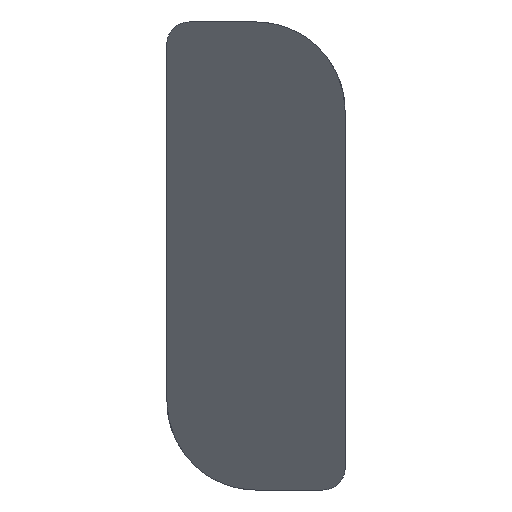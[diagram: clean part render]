
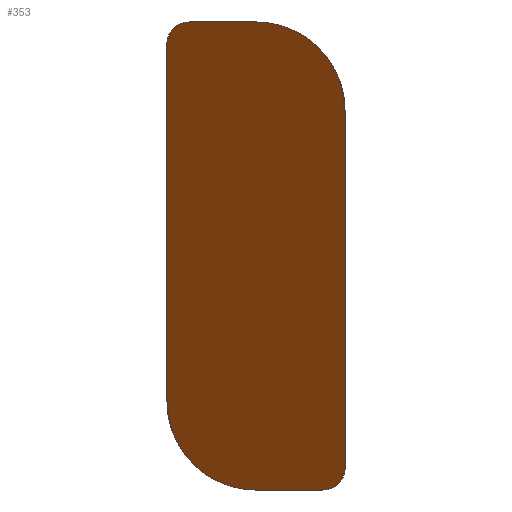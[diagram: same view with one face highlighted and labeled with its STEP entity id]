
A CAD part, left-side view. The second image highlights one B-rep face of the part: STEP entity #353.
In plain terms, the highlighted planar face has unit normal (-0.766, 0, -0.643).
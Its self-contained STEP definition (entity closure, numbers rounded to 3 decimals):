
#5 = LINE ( 'NONE', #272, #408 ) ;
#23 = ORIENTED_EDGE ( 'NONE', *, *, #111, .T. ) ;
#35 = CARTESIAN_POINT ( 'NONE',  ( -15., 4., 5.25 ) ) ;
#41 = VERTEX_POINT ( 'NONE', #304 ) ;
#47 = EDGE_CURVE ( 'NONE', #41, #493, #396, .T. ) ;
#56 = VERTEX_POINT ( 'NONE', #447 ) ;
#61 = ORIENTED_EDGE ( 'NONE', *, *, #412, .T. ) ;
#72 = CARTESIAN_POINT ( 'NONE',  ( -15., 0.828, 5.25 ) ) ;
#90 = CARTESIAN_POINT ( 'NONE',  ( -15., 4., 5.25 ) ) ;
#91 = AXIS2_PLACEMENT_3D ( 'NONE', #35, #345, #510 ) ;
#104 = VECTOR ( 'NONE', #546, 1000. ) ;
#111 = EDGE_CURVE ( 'NONE', #56, #41, #467, .T. ) ;
#112 = ORIENTED_EDGE ( 'NONE', *, *, #511, .F. ) ;
#121 = CARTESIAN_POINT ( 'NONE',  ( -6.885, 4., -4.422 ) ) ;
#135 = VERTEX_POINT ( 'NONE', #305 ) ;
#158 = CARTESIAN_POINT ( 'NONE',  ( -6.189, 0.5, -5.25 ) ) ;
#179 = CARTESIAN_POINT ( 'NONE',  ( -6.609, 0., -4.75 ) ) ;
#186 = EDGE_CURVE ( 'NONE', #411, #56, #516, .T. ) ;
#200 =( BOUNDED_CURVE ( )  B_SPLINE_CURVE ( 3, ( #341, #430, #72, #558 ),
 .UNSPECIFIED., .F., .T. ) 
 B_SPLINE_CURVE_WITH_KNOTS ( ( 4, 4 ),
 ( 4.712, 6.283 ),
 .UNSPECIFIED. ) 
 CURVE ( )  GEOMETRIC_REPRESENTATION_ITEM ( )  RATIONAL_B_SPLINE_CURVE ( ( 1., 0.805, 0.805, 1. ) ) 
 REPRESENTATION_ITEM ( '' )  );
#204 = VECTOR ( 'NONE', #314, 1000. ) ;
#222 = CARTESIAN_POINT ( 'NONE',  ( -15., 2., 5.25 ) ) ;
#230 = EDGE_CURVE ( 'NONE', #245, #496, #440, .T. ) ;
#239 = EDGE_LOOP ( 'NONE', ( #23, #449, #513, #61, #279, #296, #112, #375 ) ) ;
#245 = VERTEX_POINT ( 'NONE', #371 ) ;
#260 = PLANE ( 'NONE',  #91 ) ;
#272 = CARTESIAN_POINT ( 'NONE',  ( -15., 0., 5.25 ) ) ;
#279 = ORIENTED_EDGE ( 'NONE', *, *, #523, .F. ) ;
#296 = ORIENTED_EDGE ( 'NONE', *, *, #230, .T. ) ;
#304 = CARTESIAN_POINT ( 'NONE',  ( -6.189, 0.5, -5.25 ) ) ;
#305 = CARTESIAN_POINT ( 'NONE',  ( -13.322, 0., 3.25 ) ) ;
#308 = CARTESIAN_POINT ( 'NONE',  ( -14.58, 4., 4.75 ) ) ;
#314 = DIRECTION ( 'NONE',  ( 0., -1., 0. ) ) ;
#340 = FACE_OUTER_BOUND ( 'NONE', #239, .T. ) ;
#341 = CARTESIAN_POINT ( 'NONE',  ( -13.322, 0., 3.25 ) ) ;
#344 = CARTESIAN_POINT ( 'NONE',  ( -14.826, 4., 5.043 ) ) ;
#345 = DIRECTION ( 'NONE',  ( 0.766, 0., 0.643 ) ) ;
#346 = CARTESIAN_POINT ( 'NONE',  ( -15., 4., 5.25 ) ) ;
#348 = CARTESIAN_POINT ( 'NONE',  ( -7.868, 4., -3.25 ) ) ;
#349 = CARTESIAN_POINT ( 'NONE',  ( -7.868, 4., -3.25 ) ) ;
#353 = ADVANCED_FACE ( 'NONE', ( #340 ), #260, .F. ) ;
#363 = VERTEX_POINT ( 'NONE', #222 ) ;
#371 = CARTESIAN_POINT ( 'NONE',  ( -15., 3.5, 5.25 ) ) ;
#375 = ORIENTED_EDGE ( 'NONE', *, *, #186, .T. ) ;
#393 = CARTESIAN_POINT ( 'NONE',  ( -6.189, 2., -5.25 ) ) ;
#396 =( BOUNDED_CURVE ( )  B_SPLINE_CURVE ( 3, ( #158, #465, #505, #512 ),
 .UNSPECIFIED., .F., .T. ) 
 B_SPLINE_CURVE_WITH_KNOTS ( ( 4, 4 ),
 ( 0., 1.571 ),
 .UNSPECIFIED. ) 
 CURVE ( )  GEOMETRIC_REPRESENTATION_ITEM ( )  RATIONAL_B_SPLINE_CURVE ( ( 1., 0.805, 0.805, 1. ) ) 
 REPRESENTATION_ITEM ( '' )  );
#400 = DIRECTION ( 'NONE',  ( -0.643, 0., 0.766 ) ) ;
#408 = VECTOR ( 'NONE', #439, 1000. ) ;
#411 = VERTEX_POINT ( 'NONE', #349 ) ;
#412 = EDGE_CURVE ( 'NONE', #135, #363, #200, .T. ) ;
#422 = CARTESIAN_POINT ( 'NONE',  ( -6.189, 4., -5.25 ) ) ;
#425 = LINE ( 'NONE', #90, #530 ) ;
#430 = CARTESIAN_POINT ( 'NONE',  ( -14.305, 0., 4.422 ) ) ;
#439 = DIRECTION ( 'NONE',  ( -0.643, 0., 0.766 ) ) ;
#440 =( BOUNDED_CURVE ( )  B_SPLINE_CURVE ( 3, ( #509, #556, #344, #308 ),
 .UNSPECIFIED., .F., .T. ) 
 B_SPLINE_CURVE_WITH_KNOTS ( ( 4, 4 ),
 ( 3.142, 4.712 ),
 .UNSPECIFIED. ) 
 CURVE ( )  GEOMETRIC_REPRESENTATION_ITEM ( )  RATIONAL_B_SPLINE_CURVE ( ( 1., 0.805, 0.805, 1. ) ) 
 REPRESENTATION_ITEM ( '' )  );
#447 = CARTESIAN_POINT ( 'NONE',  ( -6.189, 2., -5.25 ) ) ;
#449 = ORIENTED_EDGE ( 'NONE', *, *, #47, .T. ) ;
#455 = EDGE_CURVE ( 'NONE', #493, #135, #5, .T. ) ;
#465 = CARTESIAN_POINT ( 'NONE',  ( -6.189, 0.207, -5.25 ) ) ;
#467 = LINE ( 'NONE', #422, #104 ) ;
#493 = VERTEX_POINT ( 'NONE', #179 ) ;
#496 = VERTEX_POINT ( 'NONE', #522 ) ;
#505 = CARTESIAN_POINT ( 'NONE',  ( -6.363, 0., -5.043 ) ) ;
#509 = CARTESIAN_POINT ( 'NONE',  ( -15., 3.5, 5.25 ) ) ;
#510 = DIRECTION ( 'NONE',  ( 0.643, 0., -0.766 ) ) ;
#511 = EDGE_CURVE ( 'NONE', #411, #496, #425, .T. ) ;
#512 = CARTESIAN_POINT ( 'NONE',  ( -6.609, 0., -4.75 ) ) ;
#513 = ORIENTED_EDGE ( 'NONE', *, *, #455, .T. ) ;
#515 = CARTESIAN_POINT ( 'NONE',  ( -6.189, 3.172, -5.25 ) ) ;
#516 =( BOUNDED_CURVE ( )  B_SPLINE_CURVE ( 3, ( #348, #121, #515, #393 ),
 .UNSPECIFIED., .F., .T. ) 
 B_SPLINE_CURVE_WITH_KNOTS ( ( 4, 4 ),
 ( 1.571, 3.142 ),
 .UNSPECIFIED. ) 
 CURVE ( )  GEOMETRIC_REPRESENTATION_ITEM ( )  RATIONAL_B_SPLINE_CURVE ( ( 1., 0.805, 0.805, 1. ) ) 
 REPRESENTATION_ITEM ( '' )  );
#517 = LINE ( 'NONE', #346, #204 ) ;
#522 = CARTESIAN_POINT ( 'NONE',  ( -14.58, 4., 4.75 ) ) ;
#523 = EDGE_CURVE ( 'NONE', #245, #363, #517, .T. ) ;
#530 = VECTOR ( 'NONE', #400, 1000. ) ;
#546 = DIRECTION ( 'NONE',  ( 0., -1., 0. ) ) ;
#556 = CARTESIAN_POINT ( 'NONE',  ( -15., 3.793, 5.25 ) ) ;
#558 = CARTESIAN_POINT ( 'NONE',  ( -15., 2., 5.25 ) ) ;
